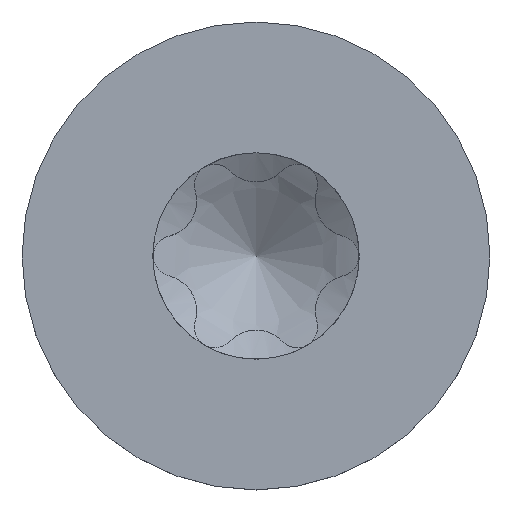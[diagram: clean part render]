
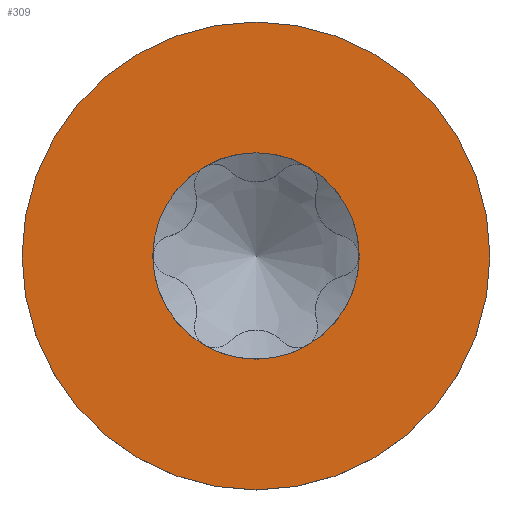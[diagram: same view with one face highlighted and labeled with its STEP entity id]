
A CAD part, top view. The second image highlights one B-rep face of the part: STEP entity #309.
In plain terms, the highlighted planar face has unit normal (0, 0, 1).
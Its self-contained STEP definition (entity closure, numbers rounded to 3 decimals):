
#266=PLANE('',#1523);
#273=FACE_BOUND('',#501,.T.);
#274=FACE_BOUND('',#502,.T.);
#309=ADVANCED_FACE('',(#273,#274),#266,.F.);
#501=EDGE_LOOP('',(#664));
#502=EDGE_LOOP('',(#665));
#604=CIRCLE('',#1521,1.985);
#605=CIRCLE('',#1522,4.5);
#664=ORIENTED_EDGE('',*,*,#1218,.F.);
#665=ORIENTED_EDGE('',*,*,#1219,.F.);
#1085=VERTEX_POINT('',#3410);
#1086=VERTEX_POINT('',#3412);
#1218=EDGE_CURVE('',#1085,#1085,#604,.T.);
#1219=EDGE_CURVE('',#1086,#1086,#605,.T.);
#1521=AXIS2_PLACEMENT_3D('',#3409,#1571,#1572);
#1522=AXIS2_PLACEMENT_3D('',#3411,#1573,#1574);
#1523=AXIS2_PLACEMENT_3D('',#3413,#1575,#1576);
#1571=DIRECTION('',(0.,0.,1.));
#1572=DIRECTION('',(-1.,0.,0.));
#1573=DIRECTION('',(0.,0.,-1.));
#1574=DIRECTION('',(-1.,0.,0.));
#1575=DIRECTION('',(0.,0.,-1.));
#1576=DIRECTION('',(-1.,0.,0.));
#3409=CARTESIAN_POINT('',(0.,0.,3.435));
#3410=CARTESIAN_POINT('',(-1.985,0.,3.435));
#3411=CARTESIAN_POINT('',(0.,0.,3.435));
#3412=CARTESIAN_POINT('',(-4.5,0.,3.435));
#3413=CARTESIAN_POINT('',(0.,0.,3.435));
